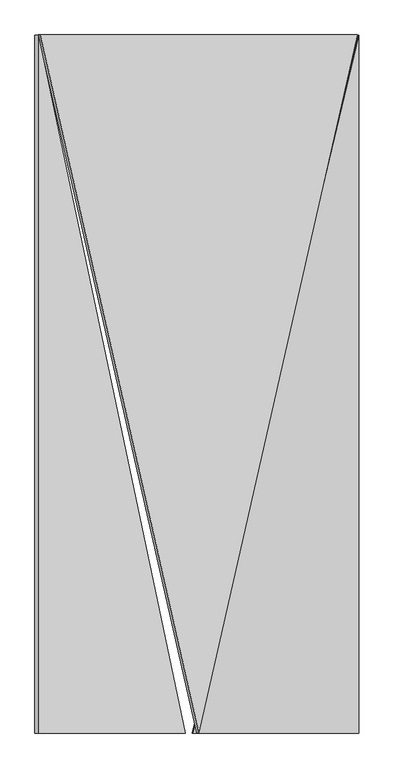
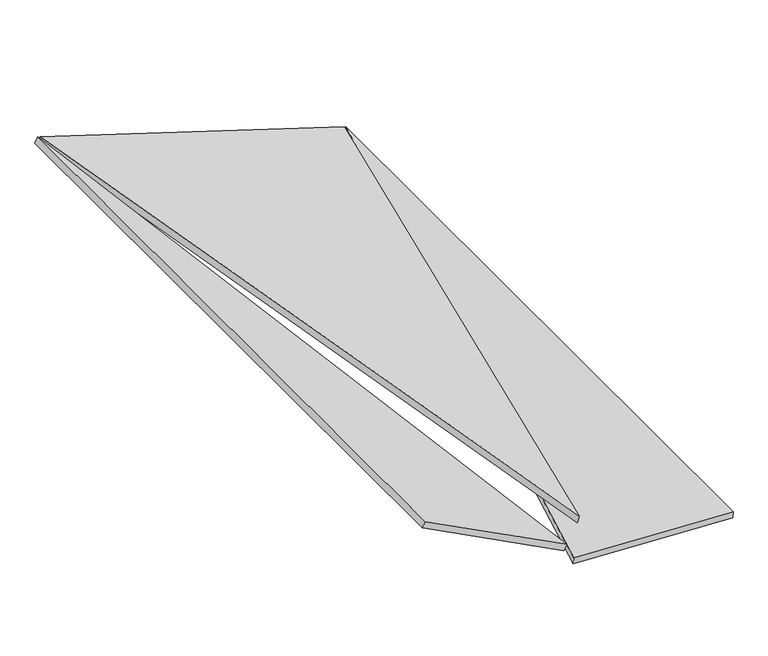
"""IFC4 building model written with IfcOpenShell, lengths in millimetres: proxy geometry, panel sufitowy 6 : panel sufitowy 6."""

from ifc_helpers import new_model, si_unit, frame, origin, place, context, project, spatial, polyline, outline, extrude, source, transform, mapped, element, save


def generic_models_b7cadb70(model_context):
    return source(origin(), model_context, "Body", "SweptSolid", [
        extrude(outline(polyline([(-900.9098917, 0.0), (1235.4098448, 0.0), (1006.1909889, -962.7191946), (-900.9098917, 0.0)])), frame((520.065992, -1457.4151922, 1019.716037), z_axis=(0.300705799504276, 0.0, 0.953716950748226), x_axis=(-0.22090042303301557, 0.9728062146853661, 0.06964963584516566)), (0.0, 0.0, 1.0), 20.0),
        extrude(outline(polyline([(-127.5, 0.0), (-622.5000001, 0.0), (-127.5, 2079.0), (-127.5, 0.0)])), frame((1327.816475, -2335.0, 799.6341496), z_axis=(0.04361938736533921, 0.0, 0.9990482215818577), x_axis=(0.9990482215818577, 0.0, -0.04361938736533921)), (0.0, 0.0, 1.0), 20.0),
        extrude(outline(polyline([(-127.5000001, 0.0), (-127.5000001, -2079.0), (-622.5000001, 0.0), (-127.5000001, 0.0)])), frame((124.0898252, -2335.0, 1167.7814272), z_axis=(0.46174861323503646, 0.0, 0.8870108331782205), x_axis=(-0.8870108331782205, 0.0, 0.46174861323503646)), (0.0, 0.0, 1.0), 20.0),
    ])


if __name__ == "__main__":
    model = new_model("IFC4")
    model_context = context("Model", 3, world=origin())
    ifc_project = project(units=[si_unit("LENGTHUNIT", "METRE", prefix="MILLI")], contexts=[model_context])
    site = spatial("IfcSite", under=ifc_project)
    building = spatial("IfcBuilding", under=site)
    placement = place(None, origin())
    generic_models_shape = generic_models_b7cadb70(model_context)
    element("IfcBuildingElementProxy", 1, Name="panel sufitowy 6 : panel sufitowy 6", ObjectType="panel sufitowy 6 : panel sufitowy 6", at=placement, inside=building, context=model_context, shape_type="MappedRepresentation", body=[
        mapped(generic_models_shape, transform((0.0, 0.0, 0.0), x_axis=(1.0, 0.0, 0.0), y_axis=(0.0, 1.0, 0.0), z_axis=(0.0, 0.0, 1.0))),
    ])
    save(model, "model.ifc")
